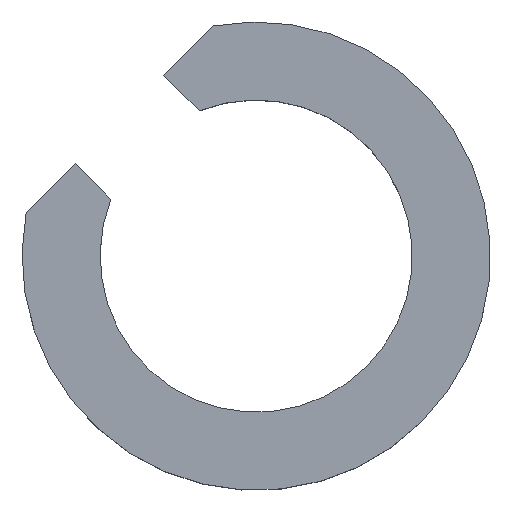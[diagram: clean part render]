
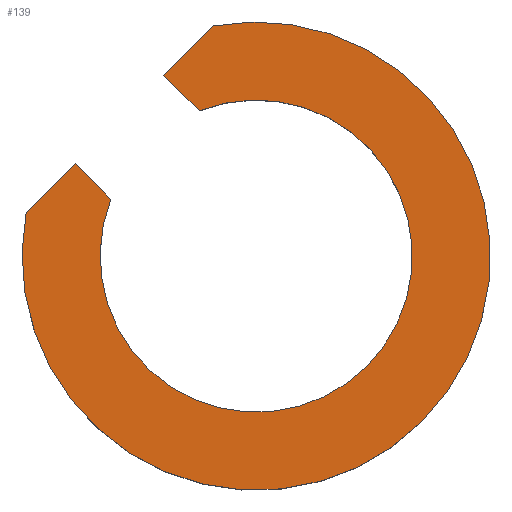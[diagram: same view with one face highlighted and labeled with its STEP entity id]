
A CAD part, top view. The second image highlights one B-rep face of the part: STEP entity #139.
In plain terms, the highlighted planar face has unit normal (0, 0, 1).
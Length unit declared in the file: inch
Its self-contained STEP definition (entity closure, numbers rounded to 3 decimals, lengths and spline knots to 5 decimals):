
#17=CIRCLE('',#150,0.25);
#18=CIRCLE('',#151,0.375);
#23=FACE_OUTER_BOUND('',#31,.T.);
#31=EDGE_LOOP('',(#103,#104,#105,#106,#107,#108));
#38=LINE('',#205,#52);
#44=LINE('',#217,#58);
#45=LINE('',#220,#59);
#46=LINE('',#223,#60);
#52=VECTOR('',#164,0.11101);
#58=VECTOR('',#172,0.11101);
#59=VECTOR('',#175,0.08087);
#60=VECTOR('',#178,0.08087);
#65=VERTEX_POINT('',#201);
#67=VERTEX_POINT('',#204);
#70=VERTEX_POINT('',#211);
#72=VERTEX_POINT('',#215);
#73=VERTEX_POINT('',#219);
#74=VERTEX_POINT('',#221);
#78=EDGE_CURVE('',#67,#65,#38,.T.);
#84=EDGE_CURVE('',#70,#72,#44,.T.);
#85=EDGE_CURVE('',#72,#73,#45,.T.);
#86=EDGE_CURVE('',#73,#74,#17,.T.);
#87=EDGE_CURVE('',#74,#67,#46,.T.);
#88=EDGE_CURVE('',#65,#70,#18,.T.);
#103=ORIENTED_EDGE('',*,*,#84,.T.);
#104=ORIENTED_EDGE('',*,*,#85,.T.);
#105=ORIENTED_EDGE('',*,*,#86,.T.);
#106=ORIENTED_EDGE('',*,*,#87,.T.);
#107=ORIENTED_EDGE('',*,*,#78,.T.);
#108=ORIENTED_EDGE('',*,*,#88,.T.);
#133=PLANE('',#149);
#139=ADVANCED_FACE('',(#23),#133,.T.);
#149=AXIS2_PLACEMENT_3D('',#218,#173,#174);
#150=AXIS2_PLACEMENT_3D('',#222,#176,#177);
#151=AXIS2_PLACEMENT_3D('',#224,#179,#180);
#164=DIRECTION('',(-0.707,-0.707,0.));
#172=DIRECTION('',(-0.707,-0.707,0.));
#173=DIRECTION('center_axis',(0.,0.,1.));
#174=DIRECTION('ref_axis',(1.,0.,0.));
#175=DIRECTION('',(0.707,-0.707,0.));
#176=DIRECTION('center_axis',(0.,0.,-1.));
#177=DIRECTION('ref_axis',(-1.,0.,0.));
#178=DIRECTION('',(-0.707,0.707,0.));
#179=DIRECTION('center_axis',(0.,0.,1.));
#180=DIRECTION('ref_axis',(-1.,0.,0.));
#201=CARTESIAN_POINT('',(-0.36841,0.07,0.1875));
#204=CARTESIAN_POINT('',(-0.28991,0.14849,0.1875));
#205=CARTESIAN_POINT('',(-0.12607,0.31233,0.1875));
#211=CARTESIAN_POINT('',(-0.07,0.36841,0.1875));
#215=CARTESIAN_POINT('',(-0.14849,0.28991,0.1875));
#217=CARTESIAN_POINT('',(-0.12607,0.31233,0.1875));
#218=CARTESIAN_POINT('Origin',(0.,0.,
0.1875));
#219=CARTESIAN_POINT('',(-0.09131,0.23273,0.1875));
#220=CARTESIAN_POINT('',(-0.10607,0.24749,0.1875));
#221=CARTESIAN_POINT('',(-0.23273,0.09131,0.1875));
#222=CARTESIAN_POINT('Origin',(0.,0.,0.1875));
#223=CARTESIAN_POINT('',(-0.14142,0.,0.1875));
#224=CARTESIAN_POINT('Origin',(0.,0.,0.1875));
